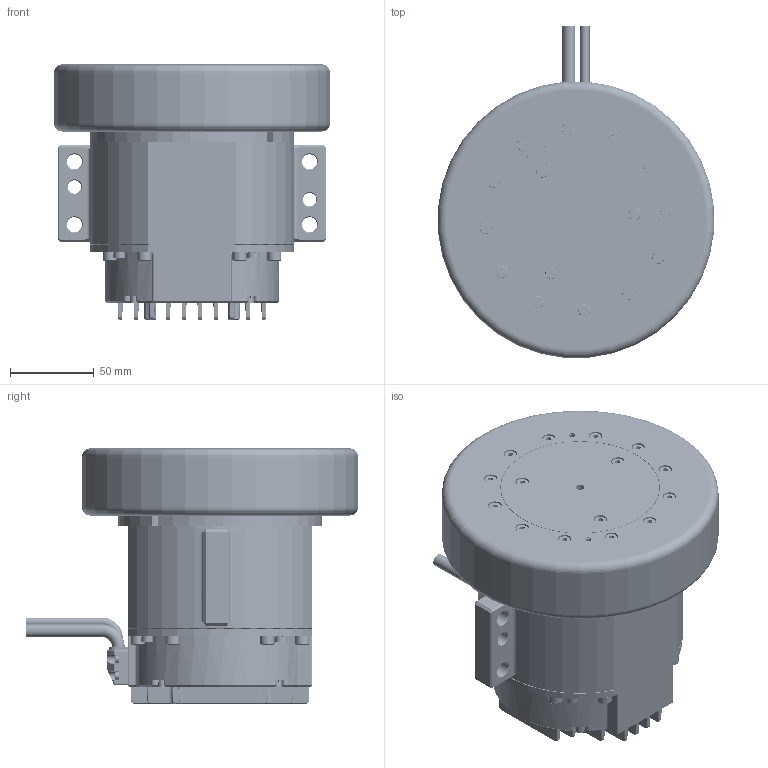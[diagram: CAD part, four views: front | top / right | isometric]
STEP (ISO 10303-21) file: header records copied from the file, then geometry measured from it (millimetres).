
FILE_DESCRIPTION (( 'STEP AP203' ), '1' );
FILE_NAME ('307091248SS£¨iWMC10409-02222-A165-MADT£©- V1.0.STEP', '2024-09-05T08:18:42', ( '' ), ( '' ), 'SwSTEP 2.0', 'SolidWorks 2023', '' );
FILE_SCHEMA (( 'CONFIG_CONTROL_DESIGN' ));
Products named in the file (1): 307091248SS（iWMC10409-02222-A165-MADT）- V1.0
Bounding box: 164.42 x 197.71 x 152 mm (x, y, z)
Volume: 1274385.8 mm3; surface area: 510757 mm2
Topology: 232 solids, 234 shells, 4754 faces, 12148 edges, 7210 vertices
Faces by surface type: cylinder 1536, plane 1284, sphere 773, cone 551, torus 490, bspline 120
Full cylindrical faces by diameter (mm): 2 x2, 2.4 x4, 2.5 x113, 2.7 x8, 3 x7, 3.19 x3, 3.3 x6, 3.5 x6, 4 x7, 4.5 x12, 5 x12, 5.411 x3, 5.5 x29, 7 x4, 7.6 x2, 8 x2, 8.5 x8, 9 x4, 15 x1, 20 x1, 20.667 x2, 24 x1, 25.667 x2, 26 x1, 26.333 x2, 31.333 x2, 32 x3, 33.7 x1, 37 x2, 40 x1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
Entity records: 173947 total; most frequent: CARTESIAN_POINT 69477, DIRECTION 22618, ORIENTED_EDGE 20452, EDGE_CURVE 10226, AXIS2_PLACEMENT_3D 9914, VERTEX_POINT 6676, EDGE_LOOP 5840, CIRCLE 5279
